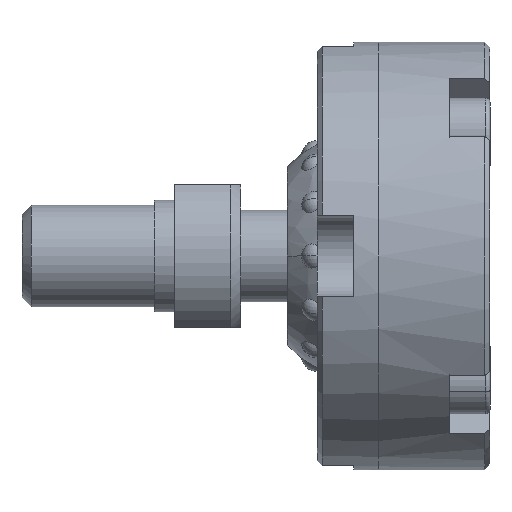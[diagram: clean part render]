
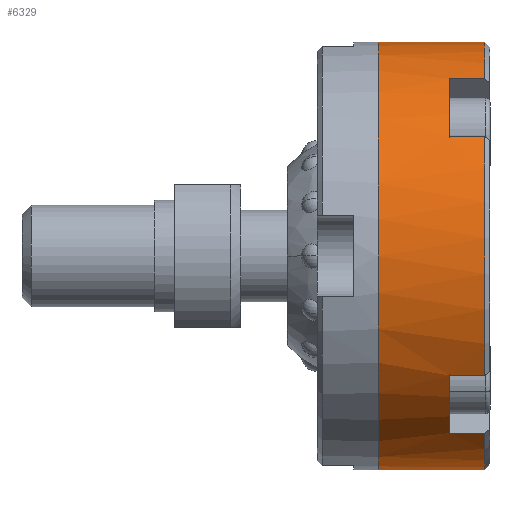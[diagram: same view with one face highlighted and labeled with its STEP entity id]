
A CAD part, front view. The second image highlights one B-rep face of the part: STEP entity #6329.
In plain terms, the highlighted cylindrical face has radius 21 mm (diameter 42 mm), a partial arc.
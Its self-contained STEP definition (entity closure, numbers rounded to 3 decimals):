
#125 = EDGE_CURVE ( 'NONE', #6180, #6179, #7540, .T. ) ;
#127 = EDGE_CURVE ( 'NONE', #6175, #6176, #7535, .T. ) ;
#142 = EDGE_CURVE ( 'NONE', #6127, #6175, #7400, .T. ) ;
#170 = EDGE_CURVE ( 'NONE', #5440, #5436, #7465, .T. ) ;
#173 = EDGE_CURVE ( 'NONE', #6180, #5436, #7615, .T. ) ;
#174 = EDGE_CURVE ( 'NONE', #6179, #6176, #7613, .T. ) ;
#816 = CARTESIAN_POINT ( 'NONE',  ( 0., 0., -21. ) ) ;
#817 = DIRECTION ( 'NONE',  ( -1., 0., 0. ) ) ;
#821 = CARTESIAN_POINT ( 'NONE',  ( 0., 0., 21. ) ) ;
#822 = DIRECTION ( 'NONE',  ( -1., 0., 0. ) ) ;
#858 = CARTESIAN_POINT ( 'NONE',  ( 10.5, 0., 0. ) ) ;
#859 = DIRECTION ( 'NONE',  ( -1., 0., 0. ) ) ;
#860 = DIRECTION ( 'NONE',  ( 0., 0., 1. ) ) ;
#931 = CARTESIAN_POINT ( 'NONE',  ( 7., -11.749, -17.406 ) ) ;
#932 = DIRECTION ( 'NONE',  ( 1., 0., 0. ) ) ;
#940 = CARTESIAN_POINT ( 'NONE',  ( 10.5, 0., 0. ) ) ;
#941 = DIRECTION ( 'NONE',  ( -1., 0., 0. ) ) ;
#942 = DIRECTION ( 'NONE',  ( 0., 0., 1. ) ) ;
#943 = CARTESIAN_POINT ( 'NONE',  ( 0., 0., 0. ) ) ;
#944 = DIRECTION ( 'NONE',  ( -1., 0., 0. ) ) ;
#945 = DIRECTION ( 'NONE',  ( 0., 0., 1. ) ) ;
#1280 = CARTESIAN_POINT ( 'NONE',  ( 10.5, -17.406, -11.749 ) ) ;
#1282 = CARTESIAN_POINT ( 'NONE',  ( 10.5, -11.749, -17.406 ) ) ;
#1286 = CARTESIAN_POINT ( 'NONE',  ( 7., -11.749, -17.406 ) ) ;
#1300 = CARTESIAN_POINT ( 'NONE',  ( 10.5, -17.406, 11.749 ) ) ;
#1328 = CARTESIAN_POINT ( 'NONE',  ( 7., -17.406, -11.749 ) ) ;
#1337 = CARTESIAN_POINT ( 'NONE',  ( 10.5, -11.749, 17.406 ) ) ;
#1384 = CARTESIAN_POINT ( 'NONE',  ( 7., -17.406, 11.749 ) ) ;
#1385 = CARTESIAN_POINT ( 'NONE',  ( 10.5, 0., 21. ) ) ;
#1386 = CARTESIAN_POINT ( 'NONE',  ( 0., 0., 21. ) ) ;
#1387 = CARTESIAN_POINT ( 'NONE',  ( 7., -11.749, 17.406 ) ) ;
#1389 = CARTESIAN_POINT ( 'NONE',  ( 0., 0., -21. ) ) ;
#1390 = CARTESIAN_POINT ( 'NONE',  ( 10.5, 0., -21. ) ) ;
#3026 = CARTESIAN_POINT ( 'NONE',  ( 7., -17.406, 11.749 ) ) ;
#3027 = DIRECTION ( 'NONE',  ( 1., 0., 0. ) ) ;
#3038 = CARTESIAN_POINT ( 'NONE',  ( 10.5, 0., 0. ) ) ;
#3039 = DIRECTION ( 'NONE',  ( -1., 0., 0. ) ) ;
#3040 = DIRECTION ( 'NONE',  ( 0., 0., 1. ) ) ;
#3067 = CARTESIAN_POINT ( 'NONE',  ( 7., -11.749, 17.406 ) ) ;
#3068 = DIRECTION ( 'NONE',  ( 1., 0., 0. ) ) ;
#3096 = CARTESIAN_POINT ( 'NONE',  ( 7., 0., 0. ) ) ;
#3097 = DIRECTION ( 'NONE',  ( 1., 0., 0. ) ) ;
#3098 = DIRECTION ( 'NONE',  ( 0., 0., -1. ) ) ;
#3101 = CARTESIAN_POINT ( 'NONE',  ( 7., 0., 0. ) ) ;
#3102 = DIRECTION ( 'NONE',  ( 1., 0., 0. ) ) ;
#3103 = DIRECTION ( 'NONE',  ( 0., 1., 0. ) ) ;
#3104 = CARTESIAN_POINT ( 'NONE',  ( 7., -17.406, -11.749 ) ) ;
#3105 = DIRECTION ( 'NONE',  ( 1., 0., 0. ) ) ;
#3453 = CARTESIAN_POINT ( 'NONE',  ( 0., 0., 0. ) ) ;
#3454 = DIRECTION ( 'NONE',  ( -1., 0., 0. ) ) ;
#3455 = DIRECTION ( 'NONE',  ( 0., 0., 1. ) ) ;
#4166 = EDGE_CURVE ( 'NONE', #6174, #5454, #7168, .T. ) ;
#4171 = EDGE_CURVE ( 'NONE', #5434, #5454, #7176, .T. ) ;
#4181 = EDGE_CURVE ( 'NONE', #6177, #6127, #7186, .T. ) ;
#4191 = EDGE_CURVE ( 'NONE', #6177, #6174, #6707, .T. ) ;
#4193 = EDGE_CURVE ( 'NONE', #5482, #5440, #6711, .T. ) ;
#4255 = AXIS2_PLACEMENT_3D ( 'NONE', #858, #859, #860 ) ;
#4267 = AXIS2_PLACEMENT_3D ( 'NONE', #940, #941, #942 ) ;
#4268 = AXIS2_PLACEMENT_3D ( 'NONE', #943, #944, #945 ) ;
#4314 = EDGE_CURVE ( 'NONE', #5482, #5434, #6708, .T. ) ;
#4917 = AXIS2_PLACEMENT_3D ( 'NONE', #3038, #3039, #3040 ) ;
#4927 = AXIS2_PLACEMENT_3D ( 'NONE', #3096, #3097, #3098 ) ;
#4928 = AXIS2_PLACEMENT_3D ( 'NONE', #3101, #3102, #3103 ) ;
#5091 = AXIS2_PLACEMENT_3D ( 'NONE', #3453, #3454, #3455 ) ;
#5434 = VERTEX_POINT ( 'NONE', #1280 ) ;
#5436 = VERTEX_POINT ( 'NONE', #1282 ) ;
#5440 = VERTEX_POINT ( 'NONE', #1286 ) ;
#5454 = VERTEX_POINT ( 'NONE', #1300 ) ;
#5482 = VERTEX_POINT ( 'NONE', #1328 ) ;
#5628 = FACE_OUTER_BOUND ( 'NONE', #9825, .T. ) ;
#5629 = CYLINDRICAL_SURFACE ( 'NONE', #5091, 21. ) ;
#6127 = VERTEX_POINT ( 'NONE', #1337 ) ;
#6174 = VERTEX_POINT ( 'NONE', #1384 ) ;
#6175 = VERTEX_POINT ( 'NONE', #1385 ) ;
#6176 = VERTEX_POINT ( 'NONE', #1386 ) ;
#6177 = VERTEX_POINT ( 'NONE', #1387 ) ;
#6179 = VERTEX_POINT ( 'NONE', #1389 ) ;
#6180 = VERTEX_POINT ( 'NONE', #1390 ) ;
#6329 = ADVANCED_FACE ( 'NONE', ( #5628 ), #5629, .T. ) ;
#6707 = CIRCLE ( 'NONE', #4927, 21. ) ;
#6708 = LINE ( 'NONE', #3104, #6712 ) ;
#6711 = CIRCLE ( 'NONE', #4928, 21. ) ;
#6712 = VECTOR ( 'NONE', #3105, 1000. ) ;
#7168 = LINE ( 'NONE', #3026, #7169 ) ;
#7169 = VECTOR ( 'NONE', #3027, 1000. ) ;
#7176 = CIRCLE ( 'NONE', #4917, 21. ) ;
#7186 = LINE ( 'NONE', #3067, #7188 ) ;
#7188 = VECTOR ( 'NONE', #3068, 1000. ) ;
#7400 = CIRCLE ( 'NONE', #4255, 21. ) ;
#7465 = LINE ( 'NONE', #931, #7628 ) ;
#7534 = VECTOR ( 'NONE', #822, 1000. ) ;
#7535 = LINE ( 'NONE', #821, #7534 ) ;
#7536 = VECTOR ( 'NONE', #817, 1000. ) ;
#7540 = LINE ( 'NONE', #816, #7536 ) ;
#7613 = CIRCLE ( 'NONE', #4268, 21. ) ;
#7615 = CIRCLE ( 'NONE', #4267, 21. ) ;
#7628 = VECTOR ( 'NONE', #932, 1000. ) ;
#8657 = ORIENTED_EDGE ( 'NONE', *, *, #142, .T. ) ;
#8684 = ORIENTED_EDGE ( 'NONE', *, *, #4166, .F. ) ;
#8686 = ORIENTED_EDGE ( 'NONE', *, *, #4191, .F. ) ;
#8688 = ORIENTED_EDGE ( 'NONE', *, *, #174, .F. ) ;
#8876 = ORIENTED_EDGE ( 'NONE', *, *, #4181, .T. ) ;
#9343 = ORIENTED_EDGE ( 'NONE', *, *, #4171, .T. ) ;
#9353 = ORIENTED_EDGE ( 'NONE', *, *, #4314, .T. ) ;
#9354 = ORIENTED_EDGE ( 'NONE', *, *, #4193, .F. ) ;
#9355 = ORIENTED_EDGE ( 'NONE', *, *, #170, .F. ) ;
#9414 = ORIENTED_EDGE ( 'NONE', *, *, #127, .T. ) ;
#9451 = ORIENTED_EDGE ( 'NONE', *, *, #173, .T. ) ;
#9452 = ORIENTED_EDGE ( 'NONE', *, *, #125, .F. ) ;
#9825 = EDGE_LOOP ( 'NONE', ( #9452, #9451, #9355, #9354, #9353, #9343, #8684, #8686, #8876, #8657, #9414, #8688 ) ) ;
